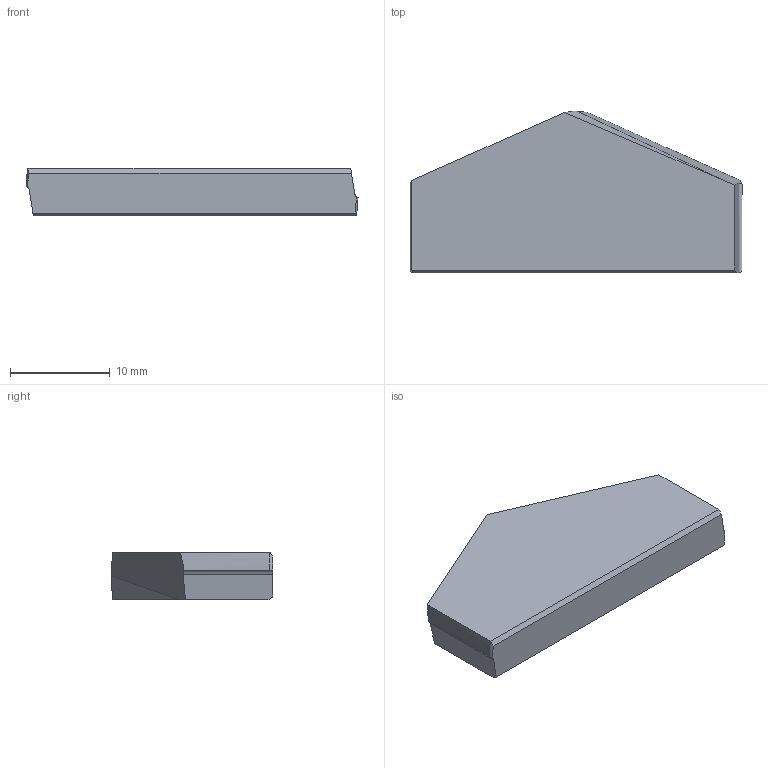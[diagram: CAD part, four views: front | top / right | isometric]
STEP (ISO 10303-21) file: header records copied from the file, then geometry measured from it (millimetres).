
FILE_DESCRIPTION (( 'STEP AP214' ), '1' );
FILE_NAME ('1.5-16.STEP', '2022-06-24T05:49:04', ( '' ), ( '' ), 'SwSTEP 2.0', 'SolidWorks 2018', '' );
FILE_SCHEMA (( 'AUTOMOTIVE_DESIGN' ));
Length unit declared in the file: millimetre
Products named in the file (1): 1.5-16
Bounding box: 33.32 x 16.25 x 4.8 mm (x, y, z)
Volume: 1968.9 mm3; surface area: 1220.2 mm2
Topology: 1 solids, 1 shells, 17 faces, 44 edges, 29 vertices
Faces by surface type: plane 11, cylinder 4, cone 2
Entity records: 554 total; most frequent: CARTESIAN_POINT 121, ORIENTED_EDGE 88, DIRECTION 76, EDGE_CURVE 44, VERTEX_POINT 29, LINE 28, VECTOR 28, AXIS2_PLACEMENT_3D 24
